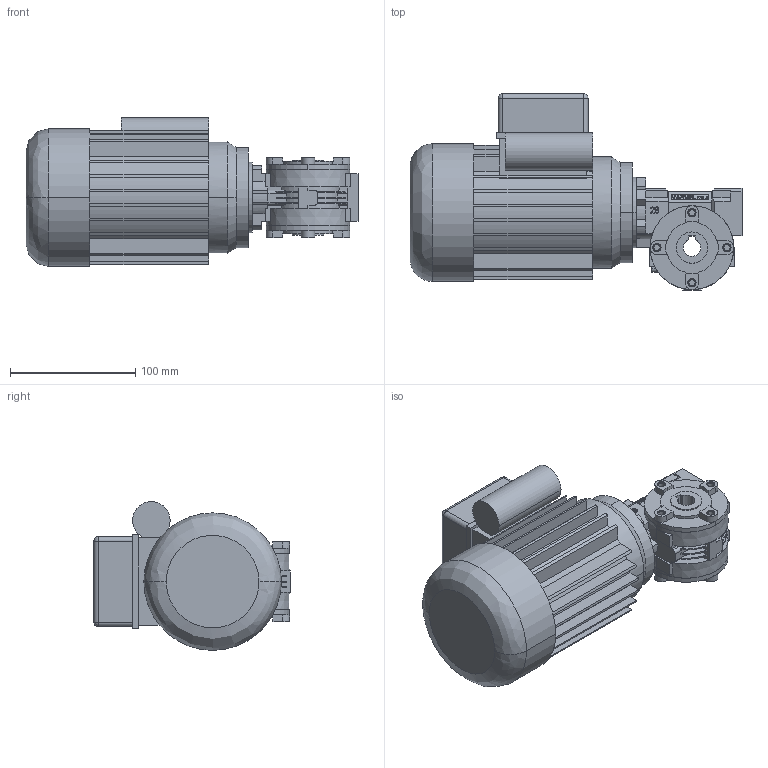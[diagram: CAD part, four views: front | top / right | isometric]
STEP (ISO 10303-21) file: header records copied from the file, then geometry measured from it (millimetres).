
FILE_DESCRIPTION (( 'STEP AP214' ), '1' );
FILE_NAME ('M56B14+RS28.STEP', '2020-03-26T16:27:18', ( '' ), ( '' ), 'SwSTEP 2.0', 'SolidWorks 2018', '' );
FILE_SCHEMA (( 'AUTOMOTIVE_DESIGN' ));
Length unit declared in the file: millimetre
Products named in the file (3): M56B14+RS28; _M_56_B_4_0,09_B14_F_230-50.3d; RS28
Assembly tree (2 placements, depth 2):
  M56B14+RS28
    RS28
    _M_56_B_4_0,09_B14_F_230-50.3d
Bounding box: 265.5 x 157 x 119 mm (x, y, z)
Volume: 1828826.2 mm3; surface area: 193692.6 mm2
Topology: 2 solids, 4 shells, 841 faces, 2214 edges, 1440 vertices
Faces by surface type: plane 560, cylinder 233, bspline 24, cone 24
Entity records: 27853 total; most frequent: CARTESIAN_POINT 6151, DIRECTION 4425, ORIENTED_EDGE 4420, EDGE_CURVE 2210, LINE 1531, VECTOR 1531, AXIS2_PLACEMENT_3D 1447, VERTEX_POINT 1440
